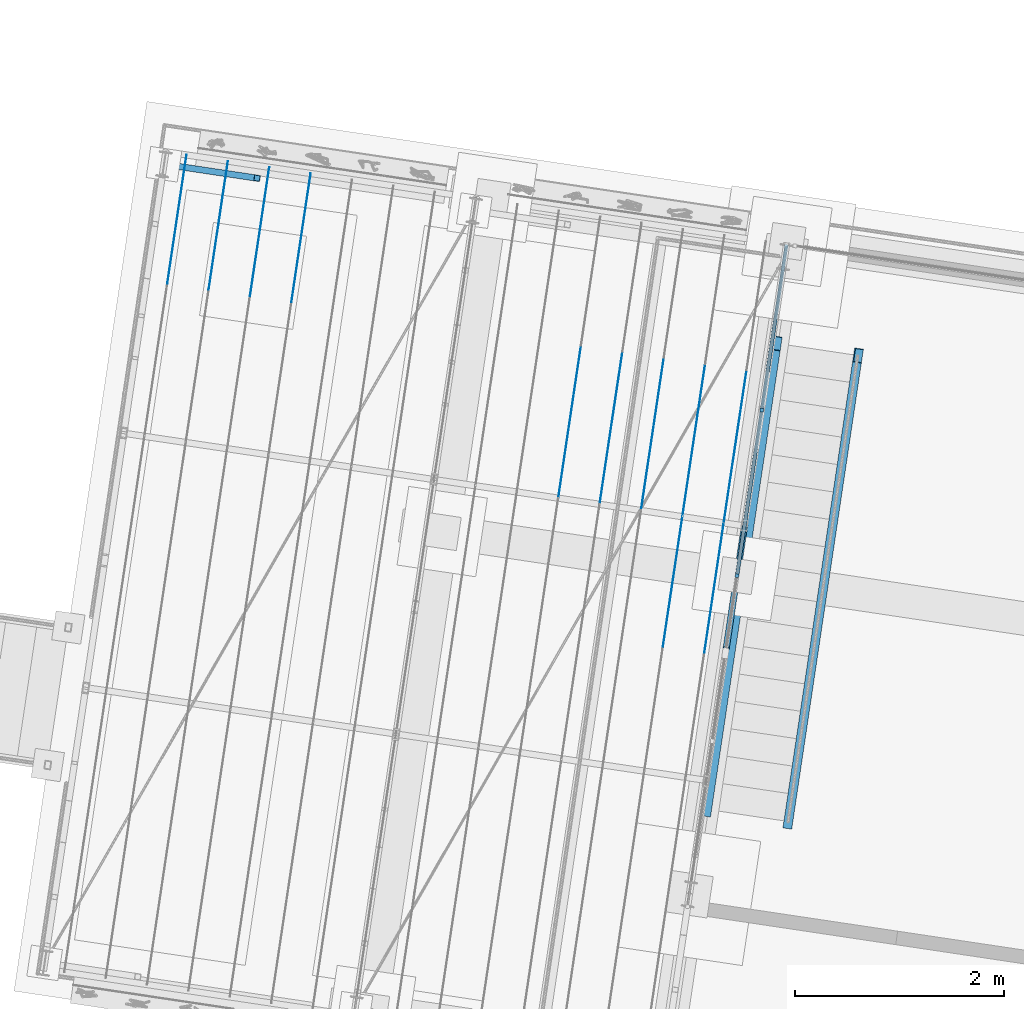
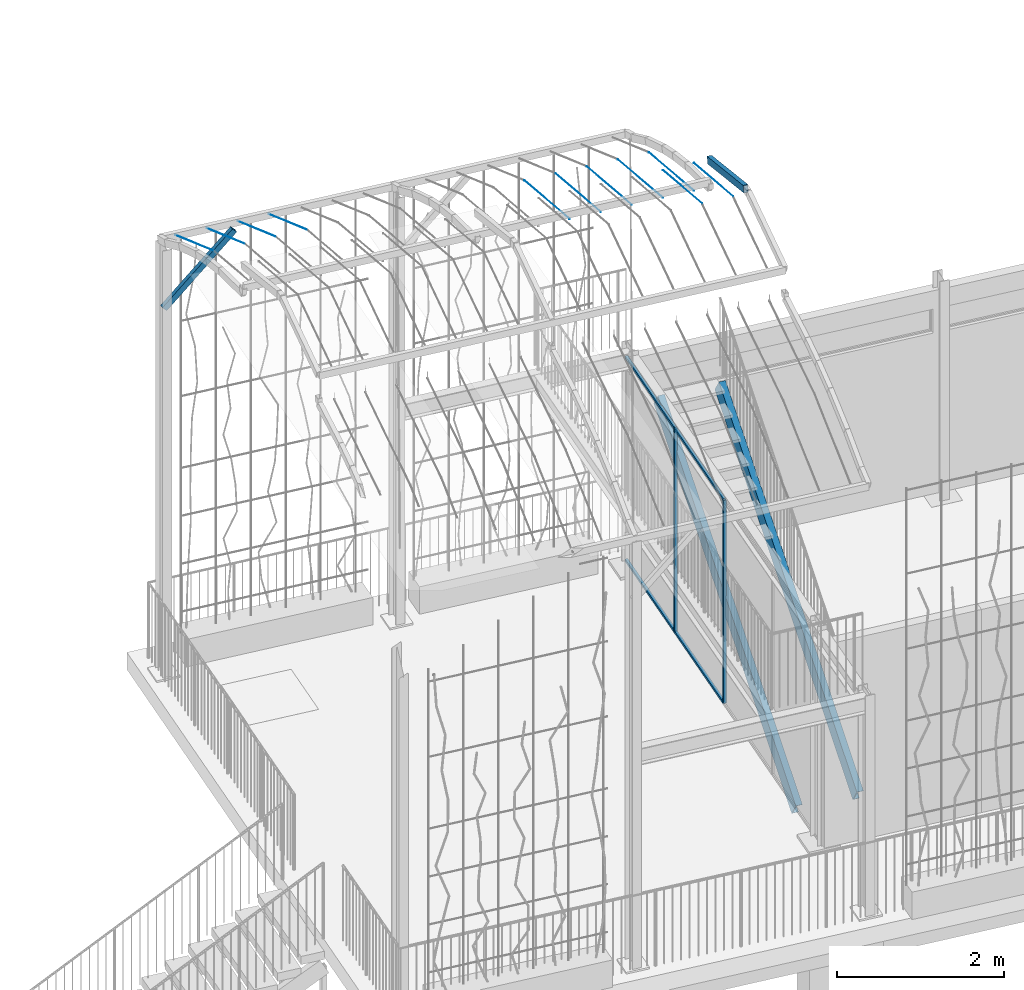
# One storey, part 30 of 143: 23 members, 2 elements without a shape of their own.
"""IFC4 building model written with IfcOpenShell, lengths in metres."""

from ifc_helpers import new_model, si_unit, direction, frame, origin_with_axes, place, context, subcontext, project, spatial, polyline, rectangle, hollow_rectangle, circle, outline, extrude, material, material_profile, profile_set, profile_usage, type_object, element, aggregate, save


model = new_model("IFC4")

# Units and contexts
model_context = context("Model", 3, precision=1e-05, world=origin_with_axes(), true_north=direction((0.0, 1.0)))
body_context = subcontext(model_context, "Body", "Model", "MODEL_VIEW")
ifc_project = project(units=[si_unit("VOLUMEUNIT", "CUBIC_METRE"), si_unit("LENGTHUNIT", "METRE"), si_unit("AREAUNIT", "SQUARE_METRE")], contexts=[model_context])

# Site, building, storey
site_placement = place(None, origin_with_axes())
site = spatial("IfcSite", under=ifc_project, at=site_placement, Name="Lares · Rua das Mercês · artigo 4771")
building_placement = place(site_placement, frame((15.0, 9.7, 15.8), z_axis=(0.0, 0.0, 1.0), x_axis=(0.989015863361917, -0.147809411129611, 0.0)))
building = spatial("IfcBuilding", under=site, at=building_placement, Name="Casa Sobreposta")
storey_placement = place(building_placement, origin_with_axes())
storey = spatial("IfcBuildingStorey", under=building, at=storey_placement, Name="00 · Habitação e estacionamento", Elevation=15.8)

# Members
ifc_material_1 = material(Name="Aço pintado / Stahl lackiert", Category="steel")
ifc_material_profile_1 = material_profile(ifc_material_1, rectangle(XDim=0.035, YDim=0.035))
ifc_profile_set_1 = profile_set([ifc_material_profile_1], Name="R0.035")
ifc_profile_usage_1 = profile_usage(ifc_profile_set_1)
member_type_1 = type_object("IfcMemberType", Name="R0.035 / steel", PredefinedType="NOTDEFINED", material=ifc_profile_set_1)
member_1_placement = place(storey_placement, frame((0.0, 3.2, 0.0), z_axis=(0.0, 0.0, 1.0), x_axis=(1.0, 0.0, 0.0)))
element("IfcMember", 1, at=member_1_placement, inside=storey, type_object=member_type_1, material=ifc_profile_usage_1, context=body_context, shape_type="SweptSolid", body=[
    extrude(rectangle(XDim=0.035, YDim=0.035), origin_with_axes(), (0.0, 0.0, 1.0), 2.968),
])
ifc_profile_usage_2 = profile_usage(ifc_profile_set_1)
member_2_placement = place(storey_placement, frame((0.0, 3.2, 0.0), z_axis=(0.0, 0.0, 1.0), x_axis=(1.0, 0.0, 0.0)))
element("IfcMember", 2, at=member_2_placement, inside=storey, type_object=member_type_1, material=ifc_profile_usage_2, context=body_context, shape_type="SweptSolid", body=[
    extrude(rectangle(XDim=0.035, YDim=0.035), origin_with_axes(), (0.0, 0.0, 1.0), 2.968),
])
ifc_profile_usage_3 = profile_usage(ifc_profile_set_1)
member_3_placement = place(storey_placement, frame((0.0, 4.8, 0.0), z_axis=(0.0, 0.0, 1.0), x_axis=(1.0, 0.0, 0.0)))
element("IfcMember", 3, at=member_3_placement, inside=storey, type_object=member_type_1, material=ifc_profile_usage_3, context=body_context, shape_type="SweptSolid", body=[
    extrude(rectangle(XDim=0.035, YDim=0.035), origin_with_axes(), (0.0, 0.0, 1.0), 2.968),
])
ifc_profile_usage_4 = profile_usage(ifc_profile_set_1)
member_4_placement = place(storey_placement, frame((0.0, 3.2, 0.0), z_axis=(0.0, 1.0, 0.0), x_axis=(1.0, 0.0, 0.0)))
element("IfcMember", 4, at=member_4_placement, inside=storey, type_object=member_type_1, material=ifc_profile_usage_4, Name="Fachada poente integralmente envidraçada · módulo 3 · travessa", context=body_context, shape_type="SweptSolid", body=[
    extrude(rectangle(XDim=0.035, YDim=0.035), origin_with_axes(), (0.0, 0.0, 1.0), 1.6),
])
ifc_profile_usage_5 = profile_usage(ifc_profile_set_1)
member_5_placement = place(storey_placement, frame((0.0, 3.2, 2.968), z_axis=(0.0, 1.0, 0.0), x_axis=(1.0, 0.0, 0.0)))
element("IfcMember", 5, at=member_5_placement, inside=storey, type_object=member_type_1, material=ifc_profile_usage_5, Name="Fachada poente integralmente envidraçada · módulo 3 · travessa", context=body_context, shape_type="SweptSolid", body=[
    extrude(rectangle(XDim=0.035, YDim=0.035), origin_with_axes(), (0.0, 0.0, 1.0), 1.6),
])
ifc_profile_usage_6 = profile_usage(ifc_profile_set_1)
member_6_placement = place(storey_placement, frame((0.0, 4.8, 0.0), z_axis=(0.0, 0.0, 1.0), x_axis=(1.0, 0.0, 0.0)))
element("IfcMember", 6, at=member_6_placement, inside=storey, type_object=member_type_1, material=ifc_profile_usage_6, context=body_context, shape_type="SweptSolid", body=[
    extrude(rectangle(XDim=0.035, YDim=0.035), origin_with_axes(), (0.0, 0.0, 1.0), 2.968),
])
ifc_profile_usage_7 = profile_usage(ifc_profile_set_1)
member_7_placement = place(storey_placement, frame((0.0, 4.8, 0.0), z_axis=(0.0, 1.0, 0.0), x_axis=(1.0, 0.0, 0.0)))
element("IfcMember", 7, at=member_7_placement, inside=storey, type_object=member_type_1, material=ifc_profile_usage_7, Name="Fachada poente integralmente envidraçada · módulo 4 · travessa", context=body_context, shape_type="SweptSolid", body=[
    extrude(rectangle(XDim=0.035, YDim=0.035), origin_with_axes(), (0.0, 0.0, 1.0), 1.6),
])
ifc_profile_usage_8 = profile_usage(ifc_profile_set_1)
member_8_placement = place(storey_placement, frame((0.0, 4.8, 2.968), z_axis=(0.0, 1.0, 0.0), x_axis=(1.0, 0.0, 0.0)))
element("IfcMember", 8, at=member_8_placement, inside=storey, type_object=member_type_1, material=ifc_profile_usage_8, Name="Fachada poente integralmente envidraçada · módulo 4 · travessa", context=body_context, shape_type="SweptSolid", body=[
    extrude(rectangle(XDim=0.035, YDim=0.035), origin_with_axes(), (0.0, 0.0, 1.0), 1.6),
])

# Stair, members
stair_placement = place(storey_placement, origin_with_axes())
stair = element("IfcStair", 9, at=stair_placement, inside=storey, Name="Escada sala", PredefinedType="STRAIGHT_RUN_STAIR")
ifc_material_profile_2 = material_profile(ifc_material_1, outline(polyline([(-0.0425, -0.12), (0.0425, -0.12), (0.0425, -0.1102), (-0.0325, -0.1102), (-0.0325, 0.1102), (0.0425, 0.1102), (0.0425, 0.12), (-0.0425, 0.12), (-0.0425, -0.12)])))
ifc_profile_set_2 = profile_set([ifc_material_profile_2], Name="C240")
ifc_profile_usage_9 = profile_usage(ifc_profile_set_2)
member_type_2 = type_object("IfcMemberType", Name="C240 / steel", PredefinedType="NOTDEFINED", material=ifc_profile_set_2)
member_9_placement = place(stair_placement, frame((0.0475, 0.9475, -0.1), z_axis=(0.0, 0.827216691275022, 0.561883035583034), x_axis=(1.0, 0.0, 0.0)))
member_9 = element("IfcMember", 10, at=member_9_placement, type_object=member_type_2, material=ifc_profile_usage_9, Name="Longarina metálica sala", context=body_context, shape_type="SweptSolid", body=[
    extrude(outline(polyline([(-0.0425, -0.12), (0.0425, -0.12), (0.0425, -0.1102), (-0.0325, -0.1102), (-0.0325, 0.1102), (0.0425, 0.1102), (0.0425, 0.12), (-0.0425, 0.12), (-0.0425, -0.12)])), origin_with_axes(), (0.0, 0.0, 1.0), 5.44597328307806),
])
ifc_profile_usage_10 = profile_usage(ifc_profile_set_2)
member_10_placement = place(stair_placement, frame((0.8325, 0.9475, -0.1), z_axis=(0.0, 0.827216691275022, 0.561883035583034), x_axis=(1.0, 0.0, 0.0)))
member_10 = element("IfcMember", 11, at=member_10_placement, type_object=member_type_2, material=ifc_profile_usage_10, Name="Longarina metálica sala", context=body_context, shape_type="SweptSolid", body=[
    extrude(outline(polyline([(-0.0425, -0.12), (0.0425, -0.12), (0.0425, -0.1102), (-0.0325, -0.1102), (-0.0325, 0.1102), (0.0425, 0.1102), (0.0425, 0.12), (-0.0425, 0.12), (-0.0425, -0.12)])), origin_with_axes(), (0.0, 0.0, 1.0), 5.44597328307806),
])
aggregate(stair, [member_9, member_10])

# Assembly, members
assembly_placement = place(storey_placement, origin_with_axes())
assembly = element("IfcElementAssembly", 12, at=assembly_placement, inside=storey, Name="Pérgola · prolongamento da estufa 6 m", ObjectType="PERGOLA_GREENHOUSE_EXTENSION", PredefinedType="USERDEFINED")
ifc_material_profile_3 = material_profile(ifc_material_1, hollow_rectangle(XDim=0.06, YDim=0.1, WallThickness=0.004))
ifc_profile_set_3 = profile_set([ifc_material_profile_3], Name="RHS100x60x4")
ifc_profile_usage_11 = profile_usage(ifc_profile_set_3)
member_type_3 = type_object("IfcMemberType", Name="RHS100x60x4 / steel", PredefinedType="NOTDEFINED", material=ifc_profile_set_3)
member_11_placement = place(assembly_placement, frame((0.0, 2.49770027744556, 7.96518238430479), z_axis=(0.0, 0.96007374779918, -0.279747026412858), x_axis=(1.0, 0.0, 0.0)))
member_11 = element("IfcMember", 13, at=member_11_placement, type_object=member_type_3, material=ifc_profile_usage_11, Name="Pérgola · arco contínuo com a estufa", context=body_context, shape_type="SweptSolid", body=[
    extrude(hollow_rectangle(XDim=0.06, YDim=0.1, WallThickness=0.004), origin_with_axes(), (0.0, 0.0, 1.0), 1.23148937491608),
])
ifc_material_profile_4 = material_profile(ifc_material_1, hollow_rectangle(XDim=0.06, YDim=0.08, WallThickness=0.004))
ifc_profile_set_4 = profile_set([ifc_material_profile_4], Name="RHS80x60x4")
ifc_profile_usage_12 = profile_usage(ifc_profile_set_4)
member_type_4 = type_object("IfcMemberType", Name="RHS80x60x4 / steel", PredefinedType="NOTDEFINED", material=ifc_profile_set_4)
member_12_placement = place(assembly_placement, frame((-6.0, 6.28, 5.3), z_axis=(0.699294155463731, 0.0, 0.714834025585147), x_axis=(0.0, -1.0, 0.0)))
member_12 = element("IfcMember", 14, at=member_12_placement, type_object=member_type_4, material=ifc_profile_usage_12, Name="Pérgola · escora alta", context=body_context, shape_type="SweptSolid", body=[
    extrude(hollow_rectangle(XDim=0.06, YDim=0.08, WallThickness=0.004), origin_with_axes(), (0.0, 0.0, 1.0), 1.28701204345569),
])
ifc_material_2 = material(Name="Aço galvanizado / Stahl verzinkt", Category="steel")
ifc_material_profile_5 = material_profile(ifc_material_2, circle(Radius=0.002))
ifc_profile_set_5 = profile_set([ifc_material_profile_5], Name="D0.004")
ifc_profile_usage_13 = profile_usage(ifc_profile_set_5)
member_type_5 = type_object("IfcMemberType", Name="D0.004 / galvanized", PredefinedType="NOTDEFINED", material=ifc_profile_set_5)
member_13_placement = place(assembly_placement, frame((-5.8, 5.15650506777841, 6.8157371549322), z_axis=(0.0, 0.905864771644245, -0.423567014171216), x_axis=(1.0, 0.0, 0.0)))
member_13 = element("IfcMember", 15, at=member_13_placement, type_object=member_type_5, material=ifc_profile_usage_13, Name="Pérgola · fio para trepadeiras", context=body_context, shape_type="SweptSolid", body=[
    extrude(circle(Radius=0.002), origin_with_axes(), (0.0, 0.0, 1.0), 1.3727158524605),
])
ifc_profile_usage_14 = profile_usage(ifc_profile_set_5)
member_14_placement = place(assembly_placement, frame((-5.4, 5.15650506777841, 6.8157371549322), z_axis=(0.0, 0.905864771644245, -0.423567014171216), x_axis=(1.0, 0.0, 0.0)))
member_14 = element("IfcMember", 16, at=member_14_placement, type_object=member_type_5, material=ifc_profile_usage_14, Name="Pérgola · fio para trepadeiras", context=body_context, shape_type="SweptSolid", body=[
    extrude(circle(Radius=0.002), origin_with_axes(), (0.0, 0.0, 1.0), 1.3727158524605),
])
ifc_profile_usage_15 = profile_usage(ifc_profile_set_5)
member_15_placement = place(assembly_placement, frame((-5.0, 5.15650506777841, 6.8157371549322), z_axis=(0.0, 0.905864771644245, -0.423567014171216), x_axis=(1.0, 0.0, 0.0)))
member_15 = element("IfcMember", 17, at=member_15_placement, type_object=member_type_5, material=ifc_profile_usage_15, Name="Pérgola · fio para trepadeiras", context=body_context, shape_type="SweptSolid", body=[
    extrude(circle(Radius=0.002), origin_with_axes(), (0.0, 0.0, 1.0), 1.3727158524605),
])
ifc_profile_usage_16 = profile_usage(ifc_profile_set_5)
member_16_placement = place(assembly_placement, frame((-4.6, 5.15650506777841, 6.8157371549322), z_axis=(0.0, 0.905864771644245, -0.423567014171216), x_axis=(1.0, 0.0, 0.0)))
member_16 = element("IfcMember", 18, at=member_16_placement, type_object=member_type_5, material=ifc_profile_usage_16, Name="Pérgola · fio para trepadeiras", context=body_context, shape_type="SweptSolid", body=[
    extrude(circle(Radius=0.002), origin_with_axes(), (0.0, 0.0, 1.0), 1.3727158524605),
])
ifc_profile_usage_17 = profile_usage(ifc_profile_set_5)
member_17_placement = place(assembly_placement, frame((-1.8, 3.68573096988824, 7.21327919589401), z_axis=(0.0, 0.965357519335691, -0.260930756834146), x_axis=(1.0, 0.0, 0.0)))
member_17 = element("IfcMember", 19, at=member_17_placement, type_object=member_type_5, material=ifc_profile_usage_17, Name="Pérgola · fio para trepadeiras", context=body_context, shape_type="SweptSolid", body=[
    extrude(circle(Radius=0.002), origin_with_axes(), (0.0, 0.0, 1.0), 1.523553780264),
])
ifc_profile_usage_18 = profile_usage(ifc_profile_set_5)
member_18_placement = place(assembly_placement, frame((-1.4, 3.68573096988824, 7.21327919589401), z_axis=(0.0, 0.965357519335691, -0.260930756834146), x_axis=(1.0, 0.0, 0.0)))
member_18 = element("IfcMember", 20, at=member_18_placement, type_object=member_type_5, material=ifc_profile_usage_18, Name="Pérgola · fio para trepadeiras", context=body_context, shape_type="SweptSolid", body=[
    extrude(circle(Radius=0.002), origin_with_axes(), (0.0, 0.0, 1.0), 1.523553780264),
])
ifc_profile_usage_19 = profile_usage(ifc_profile_set_5)
member_19_placement = place(assembly_placement, frame((-0.999999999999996, 3.68573096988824, 7.21327919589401), z_axis=(0.0, 0.965357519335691, -0.260930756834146), x_axis=(1.0, 0.0, 0.0)))
member_19 = element("IfcMember", 21, at=member_19_placement, type_object=member_type_5, material=ifc_profile_usage_19, Name="Pérgola · fio para trepadeiras", context=body_context, shape_type="SweptSolid", body=[
    extrude(circle(Radius=0.002), origin_with_axes(), (0.0, 0.0, 1.0), 1.523553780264),
])
ifc_profile_usage_20 = profile_usage(ifc_profile_set_5)
member_20_placement = place(assembly_placement, frame((-0.599999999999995, 2.40274082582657, 7.96518238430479), z_axis=(0.0, 0.965497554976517, -0.260412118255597), x_axis=(1.0, 0.0, 0.0)))
member_20 = element("IfcMember", 22, at=member_20_placement, type_object=member_type_5, material=ifc_profile_usage_20, Name="Pérgola · fio para trepadeiras", context=body_context, shape_type="SweptSolid", body=[
    extrude(circle(Radius=0.002), origin_with_axes(), (0.0, 0.0, 1.0), 1.32292419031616),
])
ifc_profile_usage_21 = profile_usage(ifc_profile_set_5)
member_21_placement = place(assembly_placement, frame((-0.599999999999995, 3.68573096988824, 7.21327919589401), z_axis=(0.0, 0.965357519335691, -0.260930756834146), x_axis=(1.0, 0.0, 0.0)))
member_21 = element("IfcMember", 23, at=member_21_placement, type_object=member_type_5, material=ifc_profile_usage_21, Name="Pérgola · fio para trepadeiras", context=body_context, shape_type="SweptSolid", body=[
    extrude(circle(Radius=0.002), origin_with_axes(), (0.0, 0.0, 1.0), 1.523553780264),
])
ifc_profile_usage_22 = profile_usage(ifc_profile_set_5)
member_22_placement = place(assembly_placement, frame((-0.199999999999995, 2.40274082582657, 7.96518238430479), z_axis=(0.0, 0.965497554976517, -0.260412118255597), x_axis=(1.0, 0.0, 0.0)))
member_22 = element("IfcMember", 24, at=member_22_placement, type_object=member_type_5, material=ifc_profile_usage_22, Name="Pérgola · fio para trepadeiras", context=body_context, shape_type="SweptSolid", body=[
    extrude(circle(Radius=0.002), origin_with_axes(), (0.0, 0.0, 1.0), 1.32292419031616),
])
ifc_profile_usage_23 = profile_usage(ifc_profile_set_5)
member_23_placement = place(assembly_placement, frame((-0.199999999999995, 3.68573096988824, 7.21327919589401), z_axis=(0.0, 0.965357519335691, -0.260930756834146), x_axis=(1.0, 0.0, 0.0)))
member_23 = element("IfcMember", 25, at=member_23_placement, type_object=member_type_5, material=ifc_profile_usage_23, Name="Pérgola · fio para trepadeiras", context=body_context, shape_type="SweptSolid", body=[
    extrude(circle(Radius=0.002), origin_with_axes(), (0.0, 0.0, 1.0), 1.523553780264),
])
aggregate(assembly, [member_11, member_12, member_13, member_14, member_15, member_16, member_17, member_18, member_19, member_20, member_21, member_22, member_23])

save(model, "model.ifc")
